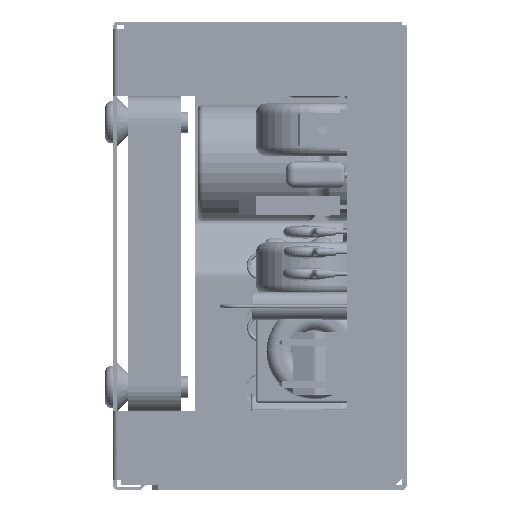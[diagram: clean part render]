
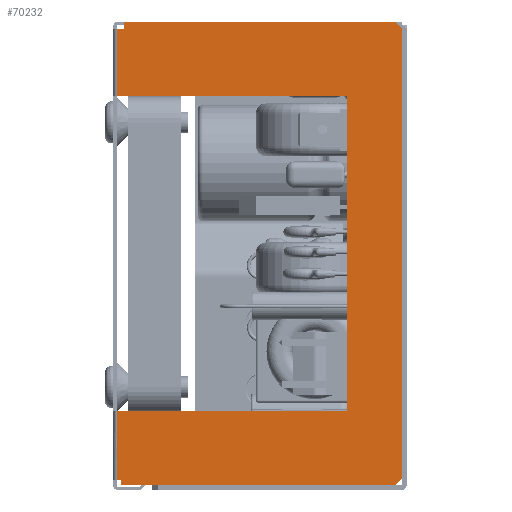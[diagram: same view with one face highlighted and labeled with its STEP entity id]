
A CAD part, left-side view. The second image highlights one B-rep face of the part: STEP entity #70232.
In plain terms, the highlighted planar face has unit normal (-1, 0, 0).
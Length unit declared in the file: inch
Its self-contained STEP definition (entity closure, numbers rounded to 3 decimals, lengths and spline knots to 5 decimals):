
#16871 = EDGE_LOOP ( 'NONE', ( #23173, #23174, #23175, #23176, #23177, #23178, #23179, #23180, #23181, #23182, #23183, #23184, #23185, #23186 ) ) ;
#23173 = ORIENTED_EDGE ( 'NONE', *, *, #49831, .F. ) ;
#23174 = ORIENTED_EDGE ( 'NONE', *, *, #49835, .T. ) ;
#23175 = ORIENTED_EDGE ( 'NONE', *, *, #49822, .T. ) ;
#23176 = ORIENTED_EDGE ( 'NONE', *, *, #49755, .T. ) ;
#23177 = ORIENTED_EDGE ( 'NONE', *, *, #49768, .T. ) ;
#23178 = ORIENTED_EDGE ( 'NONE', *, *, #49837, .T. ) ;
#23179 = ORIENTED_EDGE ( 'NONE', *, *, #49775, .F. ) ;
#23180 = ORIENTED_EDGE ( 'NONE', *, *, #49777, .F. ) ;
#23181 = ORIENTED_EDGE ( 'NONE', *, *, #49784, .F. ) ;
#23182 = ORIENTED_EDGE ( 'NONE', *, *, #49790, .F. ) ;
#23183 = ORIENTED_EDGE ( 'NONE', *, *, #49797, .F. ) ;
#23184 = ORIENTED_EDGE ( 'NONE', *, *, #49803, .F. ) ;
#23185 = ORIENTED_EDGE ( 'NONE', *, *, #49809, .F. ) ;
#23186 = ORIENTED_EDGE ( 'NONE', *, *, #49816, .F. ) ;
#29312 = FACE_OUTER_BOUND ( 'NONE', #16871, .T. ) ;
#30961 = PLANE ( 'NONE',  #110475 ) ;
#30962 = CARTESIAN_POINT ( 'NONE',  ( -2.75, -2.66749, -6.46548 ) ) ;
#30967 = DIRECTION ( 'NONE',  ( -1., 0., 0. ) ) ;
#30968 = DIRECTION ( 'NONE',  ( 0., 0., -1. ) ) ;
#49755 = EDGE_CURVE ( 'NONE', #80566, #80564, #128441, .T. ) ;
#49768 = EDGE_CURVE ( 'NONE', #80564, #80578, #128467, .T. ) ;
#49775 = EDGE_CURVE ( 'NONE', #80586, #80542, #128478, .T. ) ;
#49777 = EDGE_CURVE ( 'NONE', #80572, #80586, #128486, .T. ) ;
#49784 = EDGE_CURVE ( 'NONE', #80584, #80572, #128497, .T. ) ;
#49790 = EDGE_CURVE ( 'NONE', #80582, #80584, #128508, .T. ) ;
#49797 = EDGE_CURVE ( 'NONE', #80576, #80582, #128519, .T. ) ;
#49803 = EDGE_CURVE ( 'NONE', #80590, #80576, #128531, .T. ) ;
#49809 = EDGE_CURVE ( 'NONE', #80594, #80590, #128542, .T. ) ;
#49816 = EDGE_CURVE ( 'NONE', #80598, #80594, #128553, .T. ) ;
#49822 = EDGE_CURVE ( 'NONE', #80602, #80566, #128564, .T. ) ;
#49831 = EDGE_CURVE ( 'NONE', #80610, #80598, #128557, .T. ) ;
#49835 = EDGE_CURVE ( 'NONE', #80610, #80602, #128587, .T. ) ;
#49837 = EDGE_CURVE ( 'NONE', #80578, #80542, #128591, .T. ) ;
#70232 = ADVANCED_FACE ( 'NONE', ( #29312 ), #30961, .T. ) ;
#80542 = VERTEX_POINT ( 'NONE', #136305 ) ;
#80564 = VERTEX_POINT ( 'NONE', #136327 ) ;
#80566 = VERTEX_POINT ( 'NONE', #136329 ) ;
#80572 = VERTEX_POINT ( 'NONE', #136335 ) ;
#80576 = VERTEX_POINT ( 'NONE', #136339 ) ;
#80578 = VERTEX_POINT ( 'NONE', #136341 ) ;
#80582 = VERTEX_POINT ( 'NONE', #136345 ) ;
#80584 = VERTEX_POINT ( 'NONE', #136347 ) ;
#80586 = VERTEX_POINT ( 'NONE', #136349 ) ;
#80590 = VERTEX_POINT ( 'NONE', #136353 ) ;
#80594 = VERTEX_POINT ( 'NONE', #136357 ) ;
#80598 = VERTEX_POINT ( 'NONE', #136361 ) ;
#80602 = VERTEX_POINT ( 'NONE', #136365 ) ;
#80610 = VERTEX_POINT ( 'NONE', #136373 ) ;
#110475 = AXIS2_PLACEMENT_3D ( 'NONE', #30962, #30967, #30968 ) ;
#128441 = LINE ( 'NONE', #129443, #128450 ) ;
#128450 = VECTOR ( 'NONE', #129448, 39.37008 ) ;
#128467 = LINE ( 'NONE', #129459, #128473 ) ;
#128473 = VECTOR ( 'NONE', #129460, 39.37008 ) ;
#128478 = LINE ( 'NONE', #129462, #128488 ) ;
#128486 = LINE ( 'NONE', #129469, #128491 ) ;
#128488 = VECTOR ( 'NONE', #129468, 39.37008 ) ;
#128491 = VECTOR ( 'NONE', #129471, 39.37008 ) ;
#128497 = LINE ( 'NONE', #129475, #128503 ) ;
#128503 = VECTOR ( 'NONE', #129477, 39.37008 ) ;
#128508 = LINE ( 'NONE', #129481, #128514 ) ;
#128514 = VECTOR ( 'NONE', #129483, 39.37008 ) ;
#128519 = LINE ( 'NONE', #129487, #128525 ) ;
#128525 = VECTOR ( 'NONE', #129489, 39.37008 ) ;
#128531 = LINE ( 'NONE', #129493, #128536 ) ;
#128536 = VECTOR ( 'NONE', #129495, 39.37008 ) ;
#128542 = LINE ( 'NONE', #129499, #128548 ) ;
#128548 = VECTOR ( 'NONE', #129501, 39.37008 ) ;
#128553 = LINE ( 'NONE', #129510, #128559 ) ;
#128557 = LINE ( 'NONE', #129500, #128585 ) ;
#128559 = VECTOR ( 'NONE', #129514, 39.37008 ) ;
#128564 = LINE ( 'NONE', #129524, #128570 ) ;
#128570 = VECTOR ( 'NONE', #129527, 39.37008 ) ;
#128585 = VECTOR ( 'NONE', #129544, 39.37008 ) ;
#128587 = LINE ( 'NONE', #129552, #128593 ) ;
#128591 = LINE ( 'NONE', #129556, #128596 ) ;
#128593 = VECTOR ( 'NONE', #129554, 39.37008 ) ;
#128596 = VECTOR ( 'NONE', #129559, 39.37008 ) ;
#129443 = CARTESIAN_POINT ( 'NONE',  ( -2.75, 1.74, 1.165 ) ) ;
#129448 = DIRECTION ( 'NONE',  ( 0., 0., 1. ) ) ;
#129459 = CARTESIAN_POINT ( 'NONE',  ( -2.75, 1.74, 1.165 ) ) ;
#129460 = DIRECTION ( 'NONE',  ( 0., -1., 0. ) ) ;
#129462 = CARTESIAN_POINT ( 'NONE',  ( -2.75, -0.03436, 1.678 ) ) ;
#129468 = DIRECTION ( 'NONE',  ( 0., -1., 0. ) ) ;
#129469 = CARTESIAN_POINT ( 'NONE',  ( -2.75, 0.05664, 1.715 ) ) ;
#129471 = DIRECTION ( 'NONE',  ( 0., 0., -1. ) ) ;
#129475 = CARTESIAN_POINT ( 'NONE',  ( -2.75, 2.1, 1.715 ) ) ;
#129477 = DIRECTION ( 'NONE',  ( 0., -1., 0. ) ) ;
#129481 = CARTESIAN_POINT ( 'NONE',  ( -2.75, 2.1, 1.715 ) ) ;
#129483 = DIRECTION ( 'NONE',  ( 0., -0.707, 0.707 ) ) ;
#129487 = CARTESIAN_POINT ( 'NONE',  ( -2.75, 2.15, -1.682 ) ) ;
#129489 = DIRECTION ( 'NONE',  ( 0., 0., 1. ) ) ;
#129493 = CARTESIAN_POINT ( 'NONE',  ( -2.75, 2.15, -1.682 ) ) ;
#129495 = DIRECTION ( 'NONE',  ( 0., 0.707, 0.707 ) ) ;
#129499 = CARTESIAN_POINT ( 'NONE',  ( -2.75, 2.1, -1.732 ) ) ;
#129500 = CARTESIAN_POINT ( 'NONE',  ( -2.75, 0.08173, -1.678 ) ) ;
#129501 = DIRECTION ( 'NONE',  ( 0., 1., 0. ) ) ;
#129510 = CARTESIAN_POINT ( 'NONE',  ( -2.75, 0.08173, -1.678 ) ) ;
#129514 = DIRECTION ( 'NONE',  ( 0., 0., -1. ) ) ;
#129524 = CARTESIAN_POINT ( 'NONE',  ( -2.75, 1.74, -1.182 ) ) ;
#129527 = DIRECTION ( 'NONE',  ( 0., 1., 0. ) ) ;
#129544 = DIRECTION ( 'NONE',  ( 0., 1., 0. ) ) ;
#129552 = CARTESIAN_POINT ( 'NONE',  ( -2.75, 0.03, -6.46548 ) ) ;
#129554 = DIRECTION ( 'NONE',  ( 0., 0., 1. ) ) ;
#129556 = CARTESIAN_POINT ( 'NONE',  ( -2.75, 0.03, -6.46548 ) ) ;
#129559 = DIRECTION ( 'NONE',  ( 0., 0., 1. ) ) ;
#136305 = CARTESIAN_POINT ( 'NONE',  ( -2.75, 0.03, 1.678 ) ) ;
#136327 = CARTESIAN_POINT ( 'NONE',  ( -2.75, 1.74, 1.165 ) ) ;
#136329 = CARTESIAN_POINT ( 'NONE',  ( -2.75, 1.74, -1.182 ) ) ;
#136335 = CARTESIAN_POINT ( 'NONE',  ( -2.75, 0.05664, 1.715 ) ) ;
#136339 = CARTESIAN_POINT ( 'NONE',  ( -2.75, 2.15, -1.682 ) ) ;
#136341 = CARTESIAN_POINT ( 'NONE',  ( -2.75, 0.03, 1.165 ) ) ;
#136345 = CARTESIAN_POINT ( 'NONE',  ( -2.75, 2.15, 1.665 ) ) ;
#136347 = CARTESIAN_POINT ( 'NONE',  ( -2.75, 2.1, 1.715 ) ) ;
#136349 = CARTESIAN_POINT ( 'NONE',  ( -2.75, 0.05664, 1.678 ) ) ;
#136353 = CARTESIAN_POINT ( 'NONE',  ( -2.75, 2.1, -1.732 ) ) ;
#136357 = CARTESIAN_POINT ( 'NONE',  ( -2.75, 0.08173, -1.732 ) ) ;
#136361 = CARTESIAN_POINT ( 'NONE',  ( -2.75, 0.08173, -1.678 ) ) ;
#136365 = CARTESIAN_POINT ( 'NONE',  ( -2.75, 0.03, -1.182 ) ) ;
#136373 = CARTESIAN_POINT ( 'NONE',  ( -2.75, 0.03, -1.678 ) ) ;
